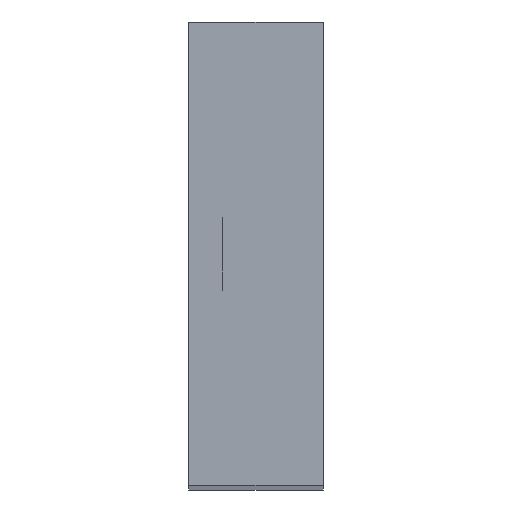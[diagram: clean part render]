
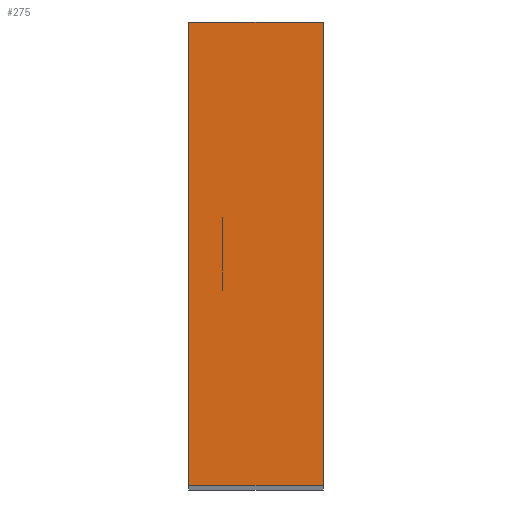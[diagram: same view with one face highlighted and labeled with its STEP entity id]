
A CAD part, top view. The second image highlights one B-rep face of the part: STEP entity #275.
In plain terms, the highlighted planar face has unit normal (0, 0, 1).
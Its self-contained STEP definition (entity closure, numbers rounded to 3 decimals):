
#24 = VERTEX_POINT('',#25);
#25 = CARTESIAN_POINT('',(-47.5,-13.8,14.));
#32 = PLANE('',#33);
#33 = AXIS2_PLACEMENT_3D('',#34,#35,#36);
#34 = CARTESIAN_POINT('',(-47.5,-13.8,-14.));
#35 = DIRECTION('',(1.,0.,0.));
#36 = DIRECTION('',(0.,0.,1.));
#44 = PLANE('',#45);
#45 = AXIS2_PLACEMENT_3D('',#46,#47,#48);
#46 = CARTESIAN_POINT('',(-47.5,-13.8,-14.));
#47 = DIRECTION('',(0.,1.,0.));
#48 = DIRECTION('',(0.,0.,1.));
#85 = VERTEX_POINT('',#86);
#86 = CARTESIAN_POINT('',(-47.5,-8.8,14.));
#100 = PLANE('',#101);
#101 = AXIS2_PLACEMENT_3D('',#102,#103,#104);
#102 = CARTESIAN_POINT('',(-47.5,-8.8,-14.));
#103 = DIRECTION('',(0.,1.,0.));
#104 = DIRECTION('',(0.,0.,1.));
#112 = EDGE_CURVE('',#24,#85,#113,.T.);
#113 = SURFACE_CURVE('',#114,(#118,#125),.PCURVE_S1.);
#114 = LINE('',#115,#116);
#115 = CARTESIAN_POINT('',(-47.5,-13.8,14.));
#116 = VECTOR('',#117,1.);
#117 = DIRECTION('',(0.,1.,0.));
#118 = PCURVE('',#32,#119);
#119 = DEFINITIONAL_REPRESENTATION('',(#120),#124);
#120 = LINE('',#121,#122);
#121 = CARTESIAN_POINT('',(28.,0.));
#122 = VECTOR('',#123,1.);
#123 = DIRECTION('',(0.,-1.));
#124 = ( GEOMETRIC_REPRESENTATION_CONTEXT(2) 
PARAMETRIC_REPRESENTATION_CONTEXT() REPRESENTATION_CONTEXT('2D SPACE',''
  ) );
#125 = PCURVE('',#126,#131);
#126 = PLANE('',#127);
#127 = AXIS2_PLACEMENT_3D('',#128,#129,#130);
#128 = CARTESIAN_POINT('',(-47.5,-13.8,14.));
#129 = DIRECTION('',(0.,0.,1.));
#130 = DIRECTION('',(1.,0.,0.));
#131 = DEFINITIONAL_REPRESENTATION('',(#132),#136);
#132 = LINE('',#133,#134);
#133 = CARTESIAN_POINT('',(0.,0.));
#134 = VECTOR('',#135,1.);
#135 = DIRECTION('',(0.,1.));
#136 = ( GEOMETRIC_REPRESENTATION_CONTEXT(2) 
PARAMETRIC_REPRESENTATION_CONTEXT() REPRESENTATION_CONTEXT('2D SPACE',''
  ) );
#227 = EDGE_CURVE('',#24,#228,#230,.T.);
#228 = VERTEX_POINT('',#229);
#229 = CARTESIAN_POINT('',(-46.05,-13.8,14.));
#230 = SURFACE_CURVE('',#231,(#235,#242),.PCURVE_S1.);
#231 = LINE('',#232,#233);
#232 = CARTESIAN_POINT('',(-47.5,-13.8,14.));
#233 = VECTOR('',#234,1.);
#234 = DIRECTION('',(1.,0.,0.));
#235 = PCURVE('',#44,#236);
#236 = DEFINITIONAL_REPRESENTATION('',(#237),#241);
#237 = LINE('',#238,#239);
#238 = CARTESIAN_POINT('',(28.,0.));
#239 = VECTOR('',#240,1.);
#240 = DIRECTION('',(0.,1.));
#241 = ( GEOMETRIC_REPRESENTATION_CONTEXT(2) 
PARAMETRIC_REPRESENTATION_CONTEXT() REPRESENTATION_CONTEXT('2D SPACE',''
  ) );
#242 = PCURVE('',#126,#243);
#243 = DEFINITIONAL_REPRESENTATION('',(#244),#248);
#244 = LINE('',#245,#246);
#245 = CARTESIAN_POINT('',(0.,0.));
#246 = VECTOR('',#247,1.);
#247 = DIRECTION('',(1.,0.));
#248 = ( GEOMETRIC_REPRESENTATION_CONTEXT(2) 
PARAMETRIC_REPRESENTATION_CONTEXT() REPRESENTATION_CONTEXT('2D SPACE',''
  ) );
#264 = PLANE('',#265);
#265 = AXIS2_PLACEMENT_3D('',#266,#267,#268);
#266 = CARTESIAN_POINT('',(-46.05,-13.8,-14.));
#267 = DIRECTION('',(1.,0.,0.));
#268 = DIRECTION('',(0.,0.,1.));
#275 = ADVANCED_FACE('',(#276),#126,.T.);
#276 = FACE_BOUND('',#277,.T.);
#277 = EDGE_LOOP('',(#278,#279,#280,#303));
#278 = ORIENTED_EDGE('',*,*,#112,.F.);
#279 = ORIENTED_EDGE('',*,*,#227,.T.);
#280 = ORIENTED_EDGE('',*,*,#281,.T.);
#281 = EDGE_CURVE('',#228,#282,#284,.T.);
#282 = VERTEX_POINT('',#283);
#283 = CARTESIAN_POINT('',(-46.05,-8.8,14.));
#284 = SURFACE_CURVE('',#285,(#289,#296),.PCURVE_S1.);
#285 = LINE('',#286,#287);
#286 = CARTESIAN_POINT('',(-46.05,-13.8,14.));
#287 = VECTOR('',#288,1.);
#288 = DIRECTION('',(0.,1.,0.));
#289 = PCURVE('',#126,#290);
#290 = DEFINITIONAL_REPRESENTATION('',(#291),#295);
#291 = LINE('',#292,#293);
#292 = CARTESIAN_POINT('',(1.45,0.));
#293 = VECTOR('',#294,1.);
#294 = DIRECTION('',(0.,1.));
#295 = ( GEOMETRIC_REPRESENTATION_CONTEXT(2) 
PARAMETRIC_REPRESENTATION_CONTEXT() REPRESENTATION_CONTEXT('2D SPACE',''
  ) );
#296 = PCURVE('',#264,#297);
#297 = DEFINITIONAL_REPRESENTATION('',(#298),#302);
#298 = LINE('',#299,#300);
#299 = CARTESIAN_POINT('',(28.,0.));
#300 = VECTOR('',#301,1.);
#301 = DIRECTION('',(0.,-1.));
#302 = ( GEOMETRIC_REPRESENTATION_CONTEXT(2) 
PARAMETRIC_REPRESENTATION_CONTEXT() REPRESENTATION_CONTEXT('2D SPACE',''
  ) );
#303 = ORIENTED_EDGE('',*,*,#304,.F.);
#304 = EDGE_CURVE('',#85,#282,#305,.T.);
#305 = SURFACE_CURVE('',#306,(#310,#317),.PCURVE_S1.);
#306 = LINE('',#307,#308);
#307 = CARTESIAN_POINT('',(-47.5,-8.8,14.));
#308 = VECTOR('',#309,1.);
#309 = DIRECTION('',(1.,0.,0.));
#310 = PCURVE('',#126,#311);
#311 = DEFINITIONAL_REPRESENTATION('',(#312),#316);
#312 = LINE('',#313,#314);
#313 = CARTESIAN_POINT('',(0.,5.));
#314 = VECTOR('',#315,1.);
#315 = DIRECTION('',(1.,0.));
#316 = ( GEOMETRIC_REPRESENTATION_CONTEXT(2) 
PARAMETRIC_REPRESENTATION_CONTEXT() REPRESENTATION_CONTEXT('2D SPACE',''
  ) );
#317 = PCURVE('',#100,#318);
#318 = DEFINITIONAL_REPRESENTATION('',(#319),#323);
#319 = LINE('',#320,#321);
#320 = CARTESIAN_POINT('',(28.,0.));
#321 = VECTOR('',#322,1.);
#322 = DIRECTION('',(0.,1.));
#323 = ( GEOMETRIC_REPRESENTATION_CONTEXT(2) 
PARAMETRIC_REPRESENTATION_CONTEXT() REPRESENTATION_CONTEXT('2D SPACE',''
  ) );
